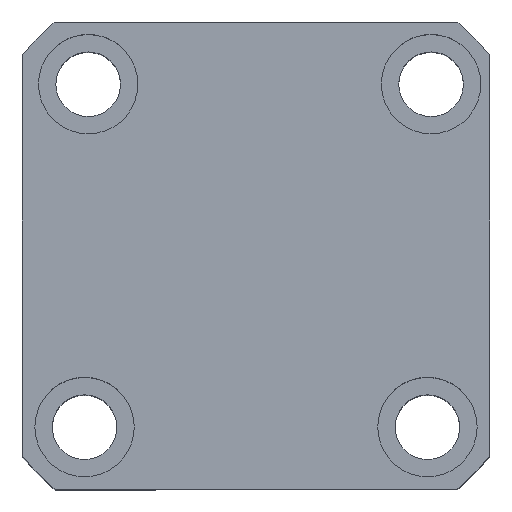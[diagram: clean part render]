
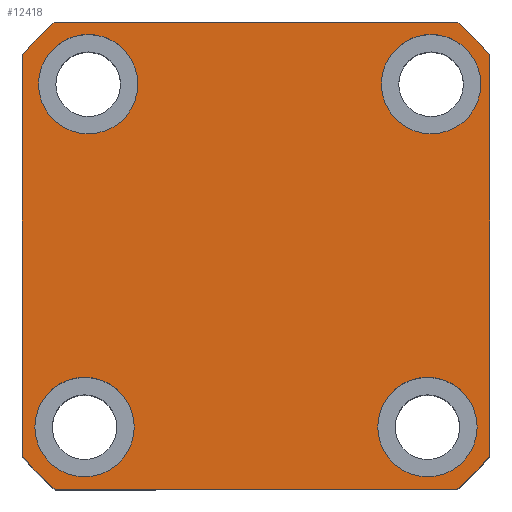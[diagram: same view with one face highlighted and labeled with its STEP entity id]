
A CAD part, top view. The second image highlights one B-rep face of the part: STEP entity #12418.
In plain terms, the highlighted planar face has unit normal (0, 0, 1) as drawn and (0, 0, -1) by its records, which use the part's own axes.
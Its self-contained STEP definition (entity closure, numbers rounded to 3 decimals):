
#134 = DIRECTION ( 'NONE',  ( 1., 0., 0. ) ) ;
#560 = DIRECTION ( 'NONE',  ( 0., 1., 0. ) ) ;
#707 = VECTOR ( 'NONE', #560, 1000. ) ;
#801 = EDGE_CURVE ( 'NONE', #10937, #14638, #16599, .T. ) ;
#912 = CARTESIAN_POINT ( 'NONE',  ( 34.5, 34.5, 0. ) ) ;
#979 = VERTEX_POINT ( 'NONE', #14270 ) ;
#1123 = AXIS2_PLACEMENT_3D ( 'NONE', #10405, #2284, #11812 ) ;
#1180 = ORIENTED_EDGE ( 'NONE', *, *, #8334, .F. ) ;
#1405 = VERTEX_POINT ( 'NONE', #14604 ) ;
#1570 = FACE_BOUND ( 'NONE', #7773, .T. ) ;
#1739 = CARTESIAN_POINT ( 'NONE',  ( -44.5, 34.5, 0. ) ) ;
#2284 = DIRECTION ( 'NONE',  ( 0., 0., -1. ) ) ;
#2310 = DIRECTION ( 'NONE',  ( -1., 0., 0. ) ) ;
#2315 = AXIS2_PLACEMENT_3D ( 'NONE', #13479, #5276, #14854 ) ;
#2383 = CARTESIAN_POINT ( 'NONE',  ( 35.23, -34.5, 0. ) ) ;
#2631 = AXIS2_PLACEMENT_3D ( 'NONE', #6739, #16368, #8113 ) ;
#2734 = EDGE_CURVE ( 'NONE', #1405, #4466, #11542, .T. ) ;
#2985 = DIRECTION ( 'NONE',  ( 0., 0., -1. ) ) ;
#3098 = CIRCLE ( 'NONE', #3134, 62. ) ;
#3134 = AXIS2_PLACEMENT_3D ( 'NONE', #14763, #6538, #16158 ) ;
#3220 = CARTESIAN_POINT ( 'NONE',  ( 0., 0., 0. ) ) ;
#3741 = DIRECTION ( 'NONE',  ( -1., 0., 0. ) ) ;
#4187 = ORIENTED_EDGE ( 'NONE', *, *, #12545, .F. ) ;
#4192 = CARTESIAN_POINT ( 'NONE',  ( -47., -40.435, 0. ) ) ;
#4219 = CARTESIAN_POINT ( 'NONE',  ( -24.5, 34.5, 0. ) ) ;
#4306 = CARTESIAN_POINT ( 'NONE',  ( -34.5, 34.5, 0. ) ) ;
#4466 = VERTEX_POINT ( 'NONE', #6300 ) ;
#4581 = DIRECTION ( 'NONE',  ( 1., 0., 0. ) ) ;
#4631 = EDGE_CURVE ( 'NONE', #15196, #14728, #13478, .T. ) ;
#4679 = DIRECTION ( 'NONE',  ( 1., 0., 0. ) ) ;
#4701 = EDGE_LOOP ( 'NONE', ( #13185, #8654 ) ) ;
#5049 = ORIENTED_EDGE ( 'NONE', *, *, #12362, .F. ) ;
#5259 = EDGE_CURVE ( 'NONE', #14728, #14845, #11745, .T. ) ;
#5276 = DIRECTION ( 'NONE',  ( 0., 0., -1. ) ) ;
#5677 = DIRECTION ( 'NONE',  ( -1., 0., 0. ) ) ;
#5685 = ORIENTED_EDGE ( 'NONE', *, *, #16742, .F. ) ;
#5867 = VERTEX_POINT ( 'NONE', #1739 ) ;
#5944 = DIRECTION ( 'NONE',  ( 0., 0., 1. ) ) ;
#6037 = CARTESIAN_POINT ( 'NONE',  ( -47., -47., 0. ) ) ;
#6041 = CIRCLE ( 'NONE', #16530, 10. ) ;
#6072 = LINE ( 'NONE', #6037, #9671 ) ;
#6094 = CARTESIAN_POINT ( 'NONE',  ( 40.435, 47., 0. ) ) ;
#6198 = DIRECTION ( 'NONE',  ( 0., 0., -1. ) ) ;
#6300 = CARTESIAN_POINT ( 'NONE',  ( 44.5, 34.5, 0. ) ) ;
#6376 = CIRCLE ( 'NONE', #17460, 10. ) ;
#6505 = ORIENTED_EDGE ( 'NONE', *, *, #10896, .F. ) ;
#6538 = DIRECTION ( 'NONE',  ( 0., 0., 1. ) ) ;
#6715 = ORIENTED_EDGE ( 'NONE', *, *, #13979, .F. ) ;
#6739 = CARTESIAN_POINT ( 'NONE',  ( 34.5, 34.5, 0. ) ) ;
#6796 = CARTESIAN_POINT ( 'NONE',  ( -40.435, 47., 0. ) ) ;
#6834 = DIRECTION ( 'NONE',  ( 0., 0., 1. ) ) ;
#6947 = ORIENTED_EDGE ( 'NONE', *, *, #15737, .F. ) ;
#7196 = EDGE_CURVE ( 'NONE', #5867, #7950, #6376, .T. ) ;
#7606 = VERTEX_POINT ( 'NONE', #7867 ) ;
#7773 = EDGE_LOOP ( 'NONE', ( #15104, #16419 ) ) ;
#7816 = CARTESIAN_POINT ( 'NONE',  ( -47., 47., 0. ) ) ;
#7867 = CARTESIAN_POINT ( 'NONE',  ( -43.77, -34.5, 0. ) ) ;
#7950 = VERTEX_POINT ( 'NONE', #4219 ) ;
#8071 = VERTEX_POINT ( 'NONE', #16423 ) ;
#8113 = DIRECTION ( 'NONE',  ( -1., 0., 0. ) ) ;
#8174 = EDGE_CURVE ( 'NONE', #7950, #5867, #13444, .T. ) ;
#8317 = DIRECTION ( 'NONE',  ( 0., 0., 1. ) ) ;
#8334 = EDGE_CURVE ( 'NONE', #979, #7606, #8495, .T. ) ;
#8402 = CARTESIAN_POINT ( 'NONE',  ( -40.435, -47., 0. ) ) ;
#8495 = CIRCLE ( 'NONE', #17707, 10. ) ;
#8615 = PLANE ( 'NONE',  #17486 ) ;
#8654 = ORIENTED_EDGE ( 'NONE', *, *, #17772, .F. ) ;
#8814 = FACE_BOUND ( 'NONE', #10730, .T. ) ;
#9214 = FACE_BOUND ( 'NONE', #17176, .T. ) ;
#9293 = DIRECTION ( 'NONE',  ( 0., -1., 0. ) ) ;
#9507 = VERTEX_POINT ( 'NONE', #14274 ) ;
#9546 = CIRCLE ( 'NONE', #2315, 10. ) ;
#9671 = VECTOR ( 'NONE', #4679, 1000. ) ;
#9791 = VECTOR ( 'NONE', #9293, 1000. ) ;
#10201 = EDGE_LOOP ( 'NONE', ( #5049, #4187, #6947, #6505, #16183, #12079, #14880, #13798 ) ) ;
#10268 = CARTESIAN_POINT ( 'NONE',  ( 47., 40.435, 0. ) ) ;
#10405 = CARTESIAN_POINT ( 'NONE',  ( 35.23, -34.5, 0. ) ) ;
#10434 = DIRECTION ( 'NONE',  ( 0., 0., -1. ) ) ;
#10730 = EDGE_LOOP ( 'NONE', ( #11213, #6715 ) ) ;
#10896 = EDGE_CURVE ( 'NONE', #14845, #8071, #6072, .T. ) ;
#10937 = VERTEX_POINT ( 'NONE', #6094 ) ;
#11115 = CARTESIAN_POINT ( 'NONE',  ( -33.77, -34.5, 0. ) ) ;
#11213 = ORIENTED_EDGE ( 'NONE', *, *, #15353, .F. ) ;
#11246 = VERTEX_POINT ( 'NONE', #15939 ) ;
#11315 = EDGE_CURVE ( 'NONE', #14638, #15196, #3098, .T. ) ;
#11356 = CARTESIAN_POINT ( 'NONE',  ( 0., 0., 0. ) ) ;
#11476 = CARTESIAN_POINT ( 'NONE',  ( 47., 47., 0. ) ) ;
#11542 = CIRCLE ( 'NONE', #2631, 10. ) ;
#11594 = LINE ( 'NONE', #11476, #707 ) ;
#11745 = CIRCLE ( 'NONE', #15720, 62. ) ;
#11812 = DIRECTION ( 'NONE',  ( -1., 0., 0. ) ) ;
#11916 = DIRECTION ( 'NONE',  ( 0., 0., -1. ) ) ;
#11992 = VERTEX_POINT ( 'NONE', #10268 ) ;
#12079 = ORIENTED_EDGE ( 'NONE', *, *, #4631, .F. ) ;
#12131 = AXIS2_PLACEMENT_3D ( 'NONE', #4306, #13881, #5677 ) ;
#12362 = EDGE_CURVE ( 'NONE', #11992, #10937, #16135, .T. ) ;
#12368 = AXIS2_PLACEMENT_3D ( 'NONE', #912, #10434, #2310 ) ;
#12393 = DIRECTION ( 'NONE',  ( -1., 0., 0. ) ) ;
#12418 = ADVANCED_FACE ( 'NONE', ( #9214, #8814, #16586, #1570, #15727 ), #8615, .F. ) ;
#12525 = DIRECTION ( 'NONE',  ( -1., 0., 0. ) ) ;
#12545 = EDGE_CURVE ( 'NONE', #9507, #11992, #11594, .T. ) ;
#12770 = DIRECTION ( 'NONE',  ( 0., 0., 1. ) ) ;
#13014 = CARTESIAN_POINT ( 'NONE',  ( -47., 47., 0. ) ) ;
#13076 = AXIS2_PLACEMENT_3D ( 'NONE', #16580, #8317, #134 ) ;
#13106 = CARTESIAN_POINT ( 'NONE',  ( -47., 40.435, 0. ) ) ;
#13185 = ORIENTED_EDGE ( 'NONE', *, *, #2734, .F. ) ;
#13339 = VERTEX_POINT ( 'NONE', #16679 ) ;
#13433 = CIRCLE ( 'NONE', #12368, 10. ) ;
#13444 = CIRCLE ( 'NONE', #12131, 10. ) ;
#13478 = LINE ( 'NONE', #7816, #9791 ) ;
#13479 = CARTESIAN_POINT ( 'NONE',  ( -33.77, -34.5, 0. ) ) ;
#13773 = AXIS2_PLACEMENT_3D ( 'NONE', #3220, #12770, #4581 ) ;
#13798 = ORIENTED_EDGE ( 'NONE', *, *, #801, .F. ) ;
#13881 = DIRECTION ( 'NONE',  ( 0., 0., -1. ) ) ;
#13895 = CIRCLE ( 'NONE', #13076, 62. ) ;
#13979 = EDGE_CURVE ( 'NONE', #11246, #13339, #6041, .T. ) ;
#14270 = CARTESIAN_POINT ( 'NONE',  ( -23.77, -34.5, 0. ) ) ;
#14274 = CARTESIAN_POINT ( 'NONE',  ( 47., -40.435, 0. ) ) ;
#14416 = CARTESIAN_POINT ( 'NONE',  ( -34.5, 34.5, 0. ) ) ;
#14604 = CARTESIAN_POINT ( 'NONE',  ( 24.5, 34.5, 0. ) ) ;
#14638 = VERTEX_POINT ( 'NONE', #6796 ) ;
#14728 = VERTEX_POINT ( 'NONE', #4192 ) ;
#14738 = CIRCLE ( 'NONE', #1123, 10. ) ;
#14763 = CARTESIAN_POINT ( 'NONE',  ( 0., 0., 0. ) ) ;
#14845 = VERTEX_POINT ( 'NONE', #8402 ) ;
#14854 = DIRECTION ( 'NONE',  ( -1., 0., 0. ) ) ;
#14880 = ORIENTED_EDGE ( 'NONE', *, *, #11315, .F. ) ;
#15064 = CARTESIAN_POINT ( 'NONE',  ( 0., 0., 0. ) ) ;
#15104 = ORIENTED_EDGE ( 'NONE', *, *, #7196, .F. ) ;
#15196 = VERTEX_POINT ( 'NONE', #13106 ) ;
#15353 = EDGE_CURVE ( 'NONE', #13339, #11246, #14738, .T. ) ;
#15550 = DIRECTION ( 'NONE',  ( 1., 0., 0. ) ) ;
#15720 = AXIS2_PLACEMENT_3D ( 'NONE', #15064, #6834, #16466 ) ;
#15727 = FACE_OUTER_BOUND ( 'NONE', #10201, .T. ) ;
#15737 = EDGE_CURVE ( 'NONE', #8071, #9507, #13895, .T. ) ;
#15813 = DIRECTION ( 'NONE',  ( -1., 0., 0. ) ) ;
#15939 = CARTESIAN_POINT ( 'NONE',  ( 45.23, -34.5, 0. ) ) ;
#16135 = CIRCLE ( 'NONE', #13773, 62. ) ;
#16158 = DIRECTION ( 'NONE',  ( 1., 0., 0. ) ) ;
#16183 = ORIENTED_EDGE ( 'NONE', *, *, #5259, .F. ) ;
#16368 = DIRECTION ( 'NONE',  ( 0., 0., -1. ) ) ;
#16419 = ORIENTED_EDGE ( 'NONE', *, *, #8174, .F. ) ;
#16423 = CARTESIAN_POINT ( 'NONE',  ( 40.435, -47., 0. ) ) ;
#16466 = DIRECTION ( 'NONE',  ( 1., 0., 0. ) ) ;
#16530 = AXIS2_PLACEMENT_3D ( 'NONE', #2383, #11916, #3741 ) ;
#16580 = CARTESIAN_POINT ( 'NONE',  ( 0., 0., 0. ) ) ;
#16586 = FACE_BOUND ( 'NONE', #4701, .T. ) ;
#16599 = LINE ( 'NONE', #13014, #17041 ) ;
#16679 = CARTESIAN_POINT ( 'NONE',  ( 25.23, -34.5, 0. ) ) ;
#16742 = EDGE_CURVE ( 'NONE', #7606, #979, #9546, .T. ) ;
#17041 = VECTOR ( 'NONE', #12393, 1000. ) ;
#17176 = EDGE_LOOP ( 'NONE', ( #5685, #1180 ) ) ;
#17460 = AXIS2_PLACEMENT_3D ( 'NONE', #14416, #6198, #15813 ) ;
#17486 = AXIS2_PLACEMENT_3D ( 'NONE', #11356, #5944, #15550 ) ;
#17707 = AXIS2_PLACEMENT_3D ( 'NONE', #11115, #2985, #12525 ) ;
#17772 = EDGE_CURVE ( 'NONE', #4466, #1405, #13433, .T. ) ;
